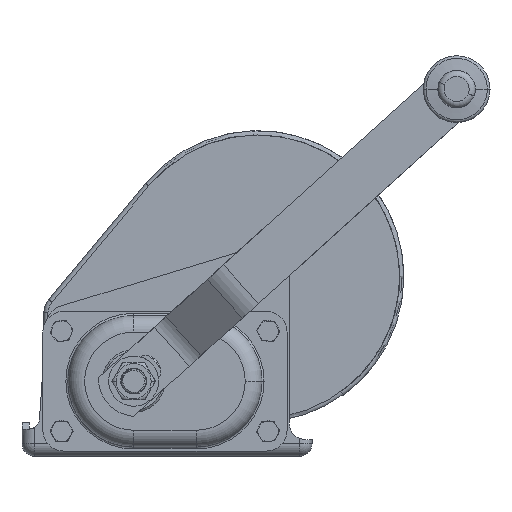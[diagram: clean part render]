
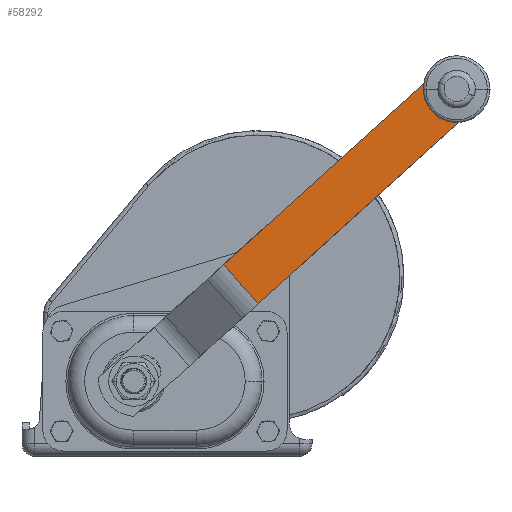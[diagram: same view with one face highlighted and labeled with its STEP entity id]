
A CAD part, front view. The second image highlights one B-rep face of the part: STEP entity #58292.
In plain terms, the highlighted planar face has unit normal (0, -1, 0) as drawn and (1, 0, 0) by its records, which use the part's own axes.
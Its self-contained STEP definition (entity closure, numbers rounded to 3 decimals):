
#1073 = CARTESIAN_POINT ( 'NONE',  ( 0., -10.25, 0. ) ) ;
#2529 = DIRECTION ( 'NONE',  ( 0., 1., 0. ) ) ;
#4126 = CARTESIAN_POINT ( 'NONE',  ( 0., -18.125, 0. ) ) ;
#4488 = DIRECTION ( 'NONE',  ( -1., 0., 0. ) ) ;
#4788 = EDGE_CURVE ( 'NONE', #46702, #12165, #36952, .T. ) ;
#6308 = DIRECTION ( 'NONE',  ( 0., 1., 0. ) ) ;
#7553 = DIRECTION ( 'NONE',  ( 0., 0., -1. ) ) ;
#8070 = DIRECTION ( 'NONE',  ( 0., 1., 0. ) ) ;
#8091 = EDGE_CURVE ( 'NONE', #52257, #46702, #21049, .T. ) ;
#9179 = VECTOR ( 'NONE', #7553, 1000. ) ;
#9379 = EDGE_CURVE ( 'NONE', #54048, #12165, #39599, .T. ) ;
#9470 = DIRECTION ( 'NONE',  ( 0., 1., 0. ) ) ;
#10856 = CARTESIAN_POINT ( 'NONE',  ( 0., 0., 12.5 ) ) ;
#11867 = CARTESIAN_POINT ( 'NONE',  ( 0., -15., 0. ) ) ;
#12165 = VERTEX_POINT ( 'NONE', #29022 ) ;
#13210 = VECTOR ( 'NONE', #56213, 1000. ) ;
#14106 = FACE_BOUND ( 'NONE', #53081, .T. ) ;
#15792 = DIRECTION ( 'NONE',  ( 1., 0., 0. ) ) ;
#18571 = CARTESIAN_POINT ( 'NONE',  ( 0., -5., 12.5 ) ) ;
#19002 = DIRECTION ( 'NONE',  ( -1., 0., 0. ) ) ;
#19952 = CARTESIAN_POINT ( 'NONE',  ( 0., -15., 0. ) ) ;
#20741 = FACE_OUTER_BOUND ( 'NONE', #46985, .T. ) ;
#21049 = LINE ( 'NONE', #45950, #9179 ) ;
#22051 = AXIS2_PLACEMENT_3D ( 'NONE', #26538, #50201, #8070 ) ;
#23509 = VERTEX_POINT ( 'NONE', #1073 ) ;
#24142 = PLANE ( 'NONE',  #42836 ) ;
#26538 = CARTESIAN_POINT ( 'NONE',  ( 0., -18.125, 0. ) ) ;
#26980 = ORIENTED_EDGE ( 'NONE', *, *, #43857, .F. ) ;
#28360 = AXIS2_PLACEMENT_3D ( 'NONE', #19952, #34525, #6308 ) ;
#29022 = CARTESIAN_POINT ( 'NONE',  ( 0., -5., -12.5 ) ) ;
#32883 = CARTESIAN_POINT ( 'NONE',  ( 0., 0., 12.5 ) ) ;
#34525 = DIRECTION ( 'NONE',  ( 1., 0., 0. ) ) ;
#35736 = VECTOR ( 'NONE', #48399, 1000. ) ;
#36930 = CARTESIAN_POINT ( 'NONE',  ( 0., 0., -12.5 ) ) ;
#36952 = LINE ( 'NONE', #36930, #13210 ) ;
#37371 = CIRCLE ( 'NONE', #22051, 18.125 ) ;
#37684 = ORIENTED_EDGE ( 'NONE', *, *, #9379, .F. ) ;
#38364 = VERTEX_POINT ( 'NONE', #43501 ) ;
#38699 = CARTESIAN_POINT ( 'NONE',  ( 0., -154.348, 12.5 ) ) ;
#39599 = CIRCLE ( 'NONE', #59347, 18.125 ) ;
#42836 = AXIS2_PLACEMENT_3D ( 'NONE', #32883, #4488, #52364 ) ;
#43501 = CARTESIAN_POINT ( 'NONE',  ( 0., -19.75, 0. ) ) ;
#43549 = CIRCLE ( 'NONE', #28360, 4.75 ) ;
#43857 = EDGE_CURVE ( 'NONE', #55043, #54048, #37371, .T. ) ;
#43885 = ORIENTED_EDGE ( 'NONE', *, *, #8091, .T. ) ;
#44582 = ORIENTED_EDGE ( 'NONE', *, *, #52915, .F. ) ;
#45950 = CARTESIAN_POINT ( 'NONE',  ( 0., -154.348, 12.5 ) ) ;
#46702 = VERTEX_POINT ( 'NONE', #57319 ) ;
#46929 = EDGE_CURVE ( 'NONE', #52257, #55043, #56521, .T. ) ;
#46985 = EDGE_LOOP ( 'NONE', ( #49526, #37684, #26980, #57465, #43885 ) ) ;
#48399 = DIRECTION ( 'NONE',  ( 0., 1., 0. ) ) ;
#49526 = ORIENTED_EDGE ( 'NONE', *, *, #4788, .T. ) ;
#49529 = EDGE_CURVE ( 'NONE', #38364, #23509, #55558, .T. ) ;
#50201 = DIRECTION ( 'NONE',  ( -1., 0., 0. ) ) ;
#52257 = VERTEX_POINT ( 'NONE', #38699 ) ;
#52364 = DIRECTION ( 'NONE',  ( 0., -1., 0. ) ) ;
#52915 = EDGE_CURVE ( 'NONE', #23509, #38364, #43549, .T. ) ;
#53081 = EDGE_LOOP ( 'NONE', ( #44582, #56897 ) ) ;
#54048 = VERTEX_POINT ( 'NONE', #57733 ) ;
#55043 = VERTEX_POINT ( 'NONE', #18571 ) ;
#55558 = CIRCLE ( 'NONE', #59282, 4.75 ) ;
#56213 = DIRECTION ( 'NONE',  ( 0., 1., 0. ) ) ;
#56521 = LINE ( 'NONE', #10856, #35736 ) ;
#56897 = ORIENTED_EDGE ( 'NONE', *, *, #49529, .F. ) ;
#57319 = CARTESIAN_POINT ( 'NONE',  ( 0., -154.348, -12.5 ) ) ;
#57465 = ORIENTED_EDGE ( 'NONE', *, *, #46929, .F. ) ;
#57733 = CARTESIAN_POINT ( 'NONE',  ( 0., 0., 0. ) ) ;
#58292 = ADVANCED_FACE ( 'NONE', ( #14106, #20741 ), #24142, .F. ) ;
#59282 = AXIS2_PLACEMENT_3D ( 'NONE', #11867, #15792, #2529 ) ;
#59347 = AXIS2_PLACEMENT_3D ( 'NONE', #4126, #19002, #9470 ) ;
